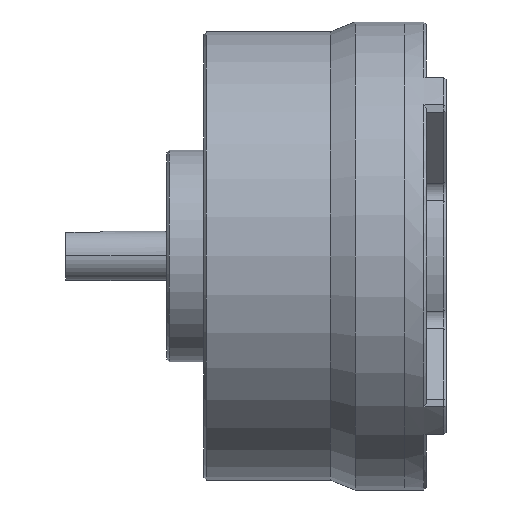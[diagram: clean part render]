
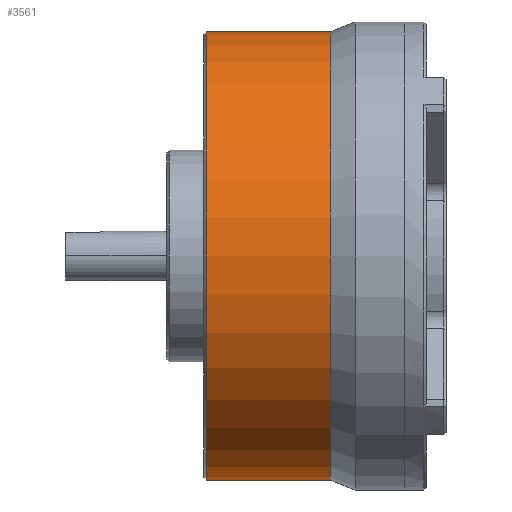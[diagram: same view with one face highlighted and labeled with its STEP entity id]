
A CAD part, left-side view. The second image highlights one B-rep face of the part: STEP entity #3561.
In plain terms, the highlighted cylindrical face has radius 45.5 mm (diameter 91 mm), a partial arc.
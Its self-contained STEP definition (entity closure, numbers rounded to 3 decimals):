
#791 = DIRECTION ( 'NONE',  ( 0., -1., 0. ) ) ;
#1040 = AXIS2_PLACEMENT_3D ( 'NONE', #8782, #7131, #2094 ) ;
#1116 = AXIS2_PLACEMENT_3D ( 'NONE', #1771, #1631, #5292 ) ;
#1420 = EDGE_CURVE ( 'NONE', #4179, #6736, #2343, .T. ) ;
#1524 = ORIENTED_EDGE ( 'NONE', *, *, #1420, .T. ) ;
#1537 = CIRCLE ( 'NONE', #4925, 45.5 ) ;
#1565 = LINE ( 'NONE', #5219, #2939 ) ;
#1631 = DIRECTION ( 'NONE',  ( 0., -1., 0. ) ) ;
#1771 = CARTESIAN_POINT ( 'NONE',  ( 0., 0., 0. ) ) ;
#1962 = CARTESIAN_POINT ( 'NONE',  ( 0., 15., -45.5 ) ) ;
#2068 = ORIENTED_EDGE ( 'NONE', *, *, #2806, .T. ) ;
#2094 = DIRECTION ( 'NONE',  ( 0., 0., 1. ) ) ;
#2220 = DIRECTION ( 'NONE',  ( 0., 0., -1. ) ) ;
#2343 = LINE ( 'NONE', #3775, #7756 ) ;
#2346 = CYLINDRICAL_SURFACE ( 'NONE', #1116, 45.5 ) ;
#2582 = ORIENTED_EDGE ( 'NONE', *, *, #7724, .F. ) ;
#2806 = EDGE_CURVE ( 'NONE', #7770, #4179, #5653, .T. ) ;
#2939 = VECTOR ( 'NONE', #8954, 1000. ) ;
#3379 = VERTEX_POINT ( 'NONE', #6140 ) ;
#3561 = ADVANCED_FACE ( 'NONE', ( #5333 ), #2346, .T. ) ;
#3775 = CARTESIAN_POINT ( 'NONE',  ( 0., 0., -45.5 ) ) ;
#4179 = VERTEX_POINT ( 'NONE', #5573 ) ;
#4408 = EDGE_CURVE ( 'NONE', #7770, #3379, #1565, .T. ) ;
#4925 = AXIS2_PLACEMENT_3D ( 'NONE', #5756, #791, #2220 ) ;
#5146 = EDGE_LOOP ( 'NONE', ( #8812, #2068, #1524, #2582 ) ) ;
#5219 = CARTESIAN_POINT ( 'NONE',  ( 0., 0., 45.5 ) ) ;
#5292 = DIRECTION ( 'NONE',  ( 0., 0., -1. ) ) ;
#5333 = FACE_OUTER_BOUND ( 'NONE', #5146, .T. ) ;
#5573 = CARTESIAN_POINT ( 'NONE',  ( 0., 40.2, -45.5 ) ) ;
#5653 = CIRCLE ( 'NONE', #1040, 45.5 ) ;
#5756 = CARTESIAN_POINT ( 'NONE',  ( 0., 15., 0. ) ) ;
#6140 = CARTESIAN_POINT ( 'NONE',  ( 0., 15., 45.5 ) ) ;
#6736 = VERTEX_POINT ( 'NONE', #1962 ) ;
#7131 = DIRECTION ( 'NONE',  ( 0., -1., 0. ) ) ;
#7336 = CARTESIAN_POINT ( 'NONE',  ( 0., 40.2, 45.5 ) ) ;
#7724 = EDGE_CURVE ( 'NONE', #3379, #6736, #1537, .T. ) ;
#7756 = VECTOR ( 'NONE', #8221, 1000. ) ;
#7770 = VERTEX_POINT ( 'NONE', #7336 ) ;
#8221 = DIRECTION ( 'NONE',  ( 0., -1., 0. ) ) ;
#8782 = CARTESIAN_POINT ( 'NONE',  ( 0., 40.2, 0. ) ) ;
#8812 = ORIENTED_EDGE ( 'NONE', *, *, #4408, .F. ) ;
#8954 = DIRECTION ( 'NONE',  ( 0., -1., 0. ) ) ;
